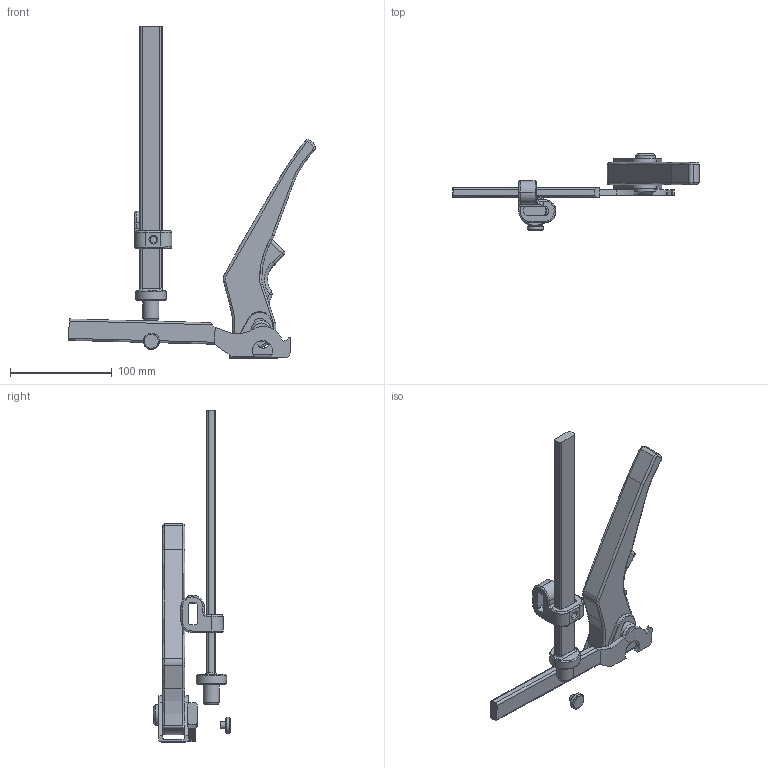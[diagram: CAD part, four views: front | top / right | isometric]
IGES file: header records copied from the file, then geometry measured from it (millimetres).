
Start section: ZWSOFT
Global section: file name: TWV16-20-15H.igs; native system: ZW3D; preprocessor: 1.0; author: ZW3D; organization: ZWSOFT; date: 150311.131301; units: millimetre
Bounding box: 243 x 76 x 326.72 mm (x, y, z)
Surface area: 73297.5 mm2 (no closed solid volume)
Topology: 0 solids, 0 shells, 247 faces, 1193 edges, 1161 vertices
Faces by surface type: bspline 247
